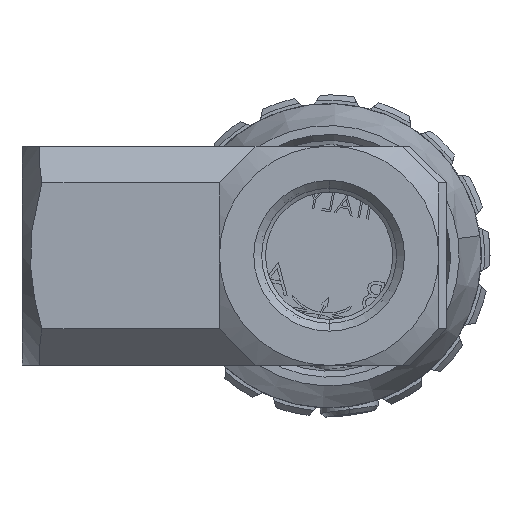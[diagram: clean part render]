
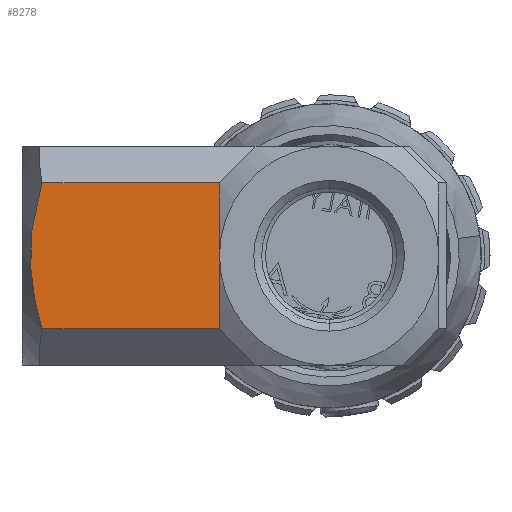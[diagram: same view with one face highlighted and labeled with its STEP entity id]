
A CAD part, front view. The second image highlights one B-rep face of the part: STEP entity #8278.
In plain terms, the highlighted planar face has unit normal (0, -1, 0).
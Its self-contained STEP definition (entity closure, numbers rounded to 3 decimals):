
#848 = CARTESIAN_POINT ( 'NONE',  ( -20.349, -8.5, -1.684 ) ) ;
#2556 = EDGE_CURVE ( 'NONE', #28669, #30115, #23016, .T. ) ;
#3217 = CARTESIAN_POINT ( 'NONE',  ( -19.874, -8.5, -4.187 ) ) ;
#3386 = VECTOR ( 'NONE', #15331, 1000. ) ;
#5089 = DIRECTION ( 'NONE',  ( 0., 0., -1. ) ) ;
#5812 = ORIENTED_EDGE ( 'NONE', *, *, #9786, .T. ) ;
#7572 = VECTOR ( 'NONE', #5089, 1000. ) ;
#7748 = VERTEX_POINT ( 'NONE', #9499 ) ;
#8278 = ADVANCED_FACE ( 'NONE', ( #27409 ), #17660, .T. ) ;
#9499 = CARTESIAN_POINT ( 'NONE',  ( -7.5, -8.5, 5. ) ) ;
#9515 = LINE ( 'NONE', #17029, #21468 ) ;
#9786 = EDGE_CURVE ( 'NONE', #30115, #22593, #9515, .T. ) ;
#10254 = CARTESIAN_POINT ( 'NONE',  ( -19.873, -8.5, 4.192 ) ) ;
#10657 = CARTESIAN_POINT ( 'NONE',  ( -7.5, -8.5, -5. ) ) ;
#10971 = EDGE_CURVE ( 'NONE', #7748, #22593, #25843, .T. ) ;
#11696 = EDGE_CURVE ( 'NONE', #7748, #28669, #21640, .T. ) ;
#12658 = CARTESIAN_POINT ( 'NONE',  ( -20.346, -8.5, 1.705 ) ) ;
#12952 = DIRECTION ( 'NONE',  ( 0., -1., 0. ) ) ;
#15060 = CARTESIAN_POINT ( 'NONE',  ( -20.423, -8.5, -0.844 ) ) ;
#15331 = DIRECTION ( 'NONE',  ( -1., 0., 0. ) ) ;
#17029 = CARTESIAN_POINT ( 'NONE',  ( -7.5, -8.5, -5. ) ) ;
#17463 = CARTESIAN_POINT ( 'NONE',  ( -20.075, -8.5, -3.354 ) ) ;
#17660 = PLANE ( 'NONE',  #20940 ) ;
#19403 = DIRECTION ( 'NONE',  ( 1., 0., 0. ) ) ;
#19643 = CARTESIAN_POINT ( 'NONE',  ( -19.637, -8.5, 5. ) ) ;
#19647 = CARTESIAN_POINT ( 'NONE',  ( -19.637, -8.5, -5. ) ) ;
#19863 = CARTESIAN_POINT ( 'NONE',  ( -19.637, -8.5, -5. ) ) ;
#20940 = AXIS2_PLACEMENT_3D ( 'NONE', #27245, #12952, #29651 ) ;
#21468 = VECTOR ( 'NONE', #19403, 1000. ) ;
#21620 = EDGE_LOOP ( 'NONE', ( #26139, #24563, #5812, #24358 ) ) ;
#21640 = LINE ( 'NONE', #29631, #3386 ) ;
#21756 = CARTESIAN_POINT ( 'NONE',  ( -7.5, -8.5, -7.5 ) ) ;
#22593 = VERTEX_POINT ( 'NONE', #10657 ) ;
#23016 = B_SPLINE_CURVE_WITH_KNOTS ( 'NONE', 3,
 ( #26954, #10254, #24562, #12658, #29347, #15060, #848, #17463, #3217, #19863 ),
 .UNSPECIFIED., .F., .F.,
 ( 4, 2, 2, 2, 4 ),
 ( 0.022, 0.025, 0.027, 0.03, 0.032 ),
 .UNSPECIFIED. ) ;
#24358 = ORIENTED_EDGE ( 'NONE', *, *, #10971, .F. ) ;
#24562 = CARTESIAN_POINT ( 'NONE',  ( -20.07, -8.5, 3.374 ) ) ;
#24563 = ORIENTED_EDGE ( 'NONE', *, *, #2556, .T. ) ;
#25843 = LINE ( 'NONE', #21756, #7572 ) ;
#26139 = ORIENTED_EDGE ( 'NONE', *, *, #11696, .T. ) ;
#26954 = CARTESIAN_POINT ( 'NONE',  ( -19.637, -8.5, 5. ) ) ;
#27245 = CARTESIAN_POINT ( 'NONE',  ( -21., -8.5, 7.5 ) ) ;
#27409 = FACE_OUTER_BOUND ( 'NONE', #21620, .T. ) ;
#28669 = VERTEX_POINT ( 'NONE', #19643 ) ;
#29347 = CARTESIAN_POINT ( 'NONE',  ( -20.423, -8.5, 0.847 ) ) ;
#29631 = CARTESIAN_POINT ( 'NONE',  ( -21., -8.5, 5. ) ) ;
#29651 = DIRECTION ( 'NONE',  ( 0., 0., -1. ) ) ;
#30115 = VERTEX_POINT ( 'NONE', #19647 ) ;
